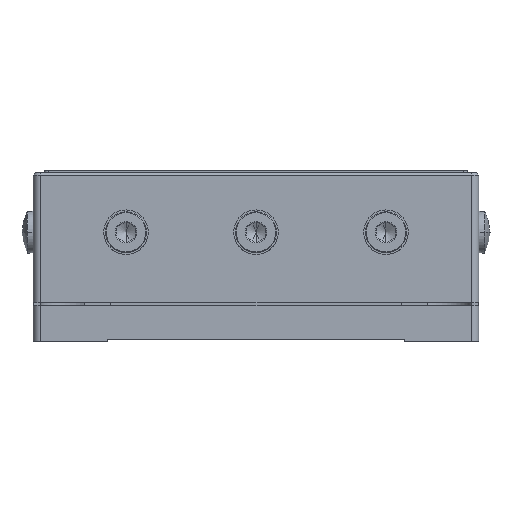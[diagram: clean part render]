
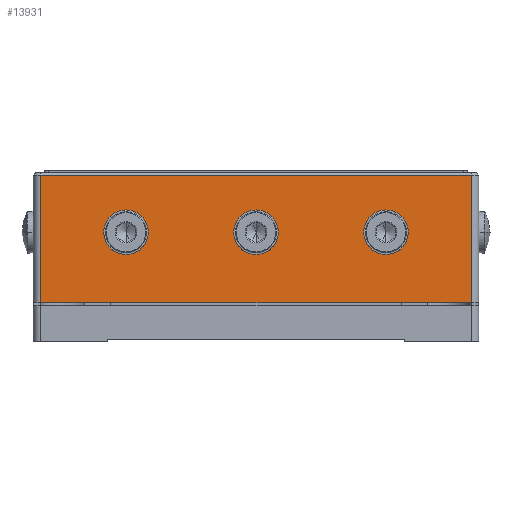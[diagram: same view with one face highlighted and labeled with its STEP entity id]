
A CAD part, left-side view. The second image highlights one B-rep face of the part: STEP entity #13931.
In plain terms, the highlighted planar face has unit normal (-1, 0, 0).
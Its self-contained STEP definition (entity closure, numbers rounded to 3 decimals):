
#99 = CARTESIAN_POINT ( 'NONE',  ( -30., -29., 29.6 ) ) ;
#530 = ORIENTED_EDGE ( 'NONE', *, *, #16750, .F. ) ;
#634 = CARTESIAN_POINT ( 'NONE',  ( -30., 14.5, 26.3 ) ) ;
#647 = DIRECTION ( 'NONE',  ( 0., 0., -1. ) ) ;
#830 = DIRECTION ( 'NONE',  ( -1., 0., 0. ) ) ;
#1829 = CIRCLE ( 'NONE', #26307, 3. ) ;
#2933 = CIRCLE ( 'NONE', #32172, 3. ) ;
#3001 = LINE ( 'NONE', #6010, #29015 ) ;
#3163 = CARTESIAN_POINT ( 'NONE',  ( -30., -20.5, 26.3 ) ) ;
#3199 = VERTEX_POINT ( 'NONE', #18403 ) ;
#3201 = CARTESIAN_POINT ( 'NONE',  ( -30., 0., 26.3 ) ) ;
#3246 = ORIENTED_EDGE ( 'NONE', *, *, #9775, .T. ) ;
#4018 = DIRECTION ( 'NONE',  ( 0., -1., 0. ) ) ;
#4426 = FACE_BOUND ( 'NONE', #24791, .T. ) ;
#4984 = AXIS2_PLACEMENT_3D ( 'NONE', #3201, #29414, #9807 ) ;
#5483 = VECTOR ( 'NONE', #647, 1000. ) ;
#5552 = DIRECTION ( 'NONE',  ( 0., 1., 0. ) ) ;
#6010 = CARTESIAN_POINT ( 'NONE',  ( -30., 29., 16.8 ) ) ;
#6212 = EDGE_CURVE ( 'NONE', #38526, #8658, #8247, .T. ) ;
#6641 = DIRECTION ( 'NONE',  ( 0., -1., 0. ) ) ;
#6999 = DIRECTION ( 'NONE',  ( 0., 1., 0. ) ) ;
#7137 = CARTESIAN_POINT ( 'NONE',  ( -30., 17.5, 26.3 ) ) ;
#7158 = VECTOR ( 'NONE', #5552, 1000. ) ;
#7789 = ORIENTED_EDGE ( 'NONE', *, *, #35085, .F. ) ;
#8247 = CIRCLE ( 'NONE', #37514, 3. ) ;
#8658 = VERTEX_POINT ( 'NONE', #33382 ) ;
#9581 = ORIENTED_EDGE ( 'NONE', *, *, #32837, .F. ) ;
#9612 = DIRECTION ( 'NONE',  ( 0., 1., 0. ) ) ;
#9775 = EDGE_CURVE ( 'NONE', #15658, #16019, #28976, .T. ) ;
#9807 = DIRECTION ( 'NONE',  ( 0., -1., 0. ) ) ;
#9818 = CARTESIAN_POINT ( 'NONE',  ( -30., 0., 26.3 ) ) ;
#11563 = AXIS2_PLACEMENT_3D ( 'NONE', #9818, #35391, #9612 ) ;
#12513 = VECTOR ( 'NONE', #19280, 1000. ) ;
#12881 = CARTESIAN_POINT ( 'NONE',  ( -30., 20.5, 26.3 ) ) ;
#13208 = CARTESIAN_POINT ( 'NONE',  ( -30., -17.5, 26.3 ) ) ;
#13605 = CARTESIAN_POINT ( 'NONE',  ( -30., 30., 34.6 ) ) ;
#13842 = DIRECTION ( 'NONE',  ( -1., 0., 0. ) ) ;
#13931 = ADVANCED_FACE ( 'NONE', ( #23407, #4426, #30850, #37258 ), #33860, .T. ) ;
#14043 = AXIS2_PLACEMENT_3D ( 'NONE', #13605, #26607, #17224 ) ;
#14148 = CARTESIAN_POINT ( 'NONE',  ( -30., -3., 26.3 ) ) ;
#14511 = CIRCLE ( 'NONE', #4984, 3. ) ;
#15658 = VERTEX_POINT ( 'NONE', #22662 ) ;
#15885 = EDGE_LOOP ( 'NONE', ( #33426, #9581 ) ) ;
#16019 = VERTEX_POINT ( 'NONE', #22542 ) ;
#16724 = DIRECTION ( 'NONE',  ( 0., -1., 0. ) ) ;
#16750 = EDGE_CURVE ( 'NONE', #3199, #27634, #19681, .T. ) ;
#17224 = DIRECTION ( 'NONE',  ( 0., 0., -1. ) ) ;
#17267 = LINE ( 'NONE', #27502, #5483 ) ;
#18403 = CARTESIAN_POINT ( 'NONE',  ( -30., 3., 26.3 ) ) ;
#18411 = EDGE_LOOP ( 'NONE', ( #40371, #3246, #27684, #21132 ) ) ;
#19280 = DIRECTION ( 'NONE',  ( 0., 0., 1. ) ) ;
#19681 = CIRCLE ( 'NONE', #11563, 3. ) ;
#20130 = DIRECTION ( 'NONE',  ( -1., 0., 0. ) ) ;
#20634 = CARTESIAN_POINT ( 'NONE',  ( -30., 17.5, 26.3 ) ) ;
#21132 = ORIENTED_EDGE ( 'NONE', *, *, #38043, .T. ) ;
#21849 = ORIENTED_EDGE ( 'NONE', *, *, #25763, .F. ) ;
#22021 = VERTEX_POINT ( 'NONE', #36439 ) ;
#22542 = CARTESIAN_POINT ( 'NONE',  ( -30., 29., 34. ) ) ;
#22662 = CARTESIAN_POINT ( 'NONE',  ( -30., -29., 34. ) ) ;
#23341 = EDGE_CURVE ( 'NONE', #16019, #22021, #17267, .T. ) ;
#23407 = FACE_OUTER_BOUND ( 'NONE', #18411, .T. ) ;
#24668 = VERTEX_POINT ( 'NONE', #12881 ) ;
#24791 = EDGE_LOOP ( 'NONE', ( #7789, #530 ) ) ;
#25479 = LINE ( 'NONE', #99, #12513 ) ;
#25763 = EDGE_CURVE ( 'NONE', #8658, #38526, #2933, .T. ) ;
#26307 = AXIS2_PLACEMENT_3D ( 'NONE', #20634, #30438, #6999 ) ;
#26607 = DIRECTION ( 'NONE',  ( -1., 0., 0. ) ) ;
#27502 = CARTESIAN_POINT ( 'NONE',  ( -30., 29., 34. ) ) ;
#27634 = VERTEX_POINT ( 'NONE', #14148 ) ;
#27684 = ORIENTED_EDGE ( 'NONE', *, *, #23341, .T. ) ;
#28976 = LINE ( 'NONE', #34954, #7158 ) ;
#29015 = VECTOR ( 'NONE', #6641, 1000. ) ;
#29414 = DIRECTION ( 'NONE',  ( -1., 0., 0. ) ) ;
#29688 = CIRCLE ( 'NONE', #36497, 3. ) ;
#30438 = DIRECTION ( 'NONE',  ( -1., 0., 0. ) ) ;
#30850 = FACE_BOUND ( 'NONE', #30876, .T. ) ;
#30876 = EDGE_LOOP ( 'NONE', ( #41468, #21849 ) ) ;
#31345 = VERTEX_POINT ( 'NONE', #634 ) ;
#32172 = AXIS2_PLACEMENT_3D ( 'NONE', #13208, #13842, #39831 ) ;
#32837 = EDGE_CURVE ( 'NONE', #24668, #31345, #1829, .T. ) ;
#33239 = CARTESIAN_POINT ( 'NONE',  ( -30., -17.5, 26.3 ) ) ;
#33382 = CARTESIAN_POINT ( 'NONE',  ( -30., -14.5, 26.3 ) ) ;
#33426 = ORIENTED_EDGE ( 'NONE', *, *, #39085, .F. ) ;
#33860 = PLANE ( 'NONE',  #14043 ) ;
#34954 = CARTESIAN_POINT ( 'NONE',  ( -30., -29., 34. ) ) ;
#35085 = EDGE_CURVE ( 'NONE', #27634, #3199, #14511, .T. ) ;
#35391 = DIRECTION ( 'NONE',  ( -1., 0., 0. ) ) ;
#36069 = EDGE_CURVE ( 'NONE', #39392, #15658, #25479, .T. ) ;
#36439 = CARTESIAN_POINT ( 'NONE',  ( -30., 29., 16.8 ) ) ;
#36497 = AXIS2_PLACEMENT_3D ( 'NONE', #7137, #20130, #16724 ) ;
#37258 = FACE_BOUND ( 'NONE', #15885, .T. ) ;
#37514 = AXIS2_PLACEMENT_3D ( 'NONE', #33239, #830, #4018 ) ;
#38043 = EDGE_CURVE ( 'NONE', #22021, #39392, #3001, .T. ) ;
#38526 = VERTEX_POINT ( 'NONE', #3163 ) ;
#39085 = EDGE_CURVE ( 'NONE', #31345, #24668, #29688, .T. ) ;
#39392 = VERTEX_POINT ( 'NONE', #41209 ) ;
#39831 = DIRECTION ( 'NONE',  ( 0., 1., 0. ) ) ;
#40371 = ORIENTED_EDGE ( 'NONE', *, *, #36069, .T. ) ;
#41209 = CARTESIAN_POINT ( 'NONE',  ( -30., -29., 16.8 ) ) ;
#41468 = ORIENTED_EDGE ( 'NONE', *, *, #6212, .F. ) ;
